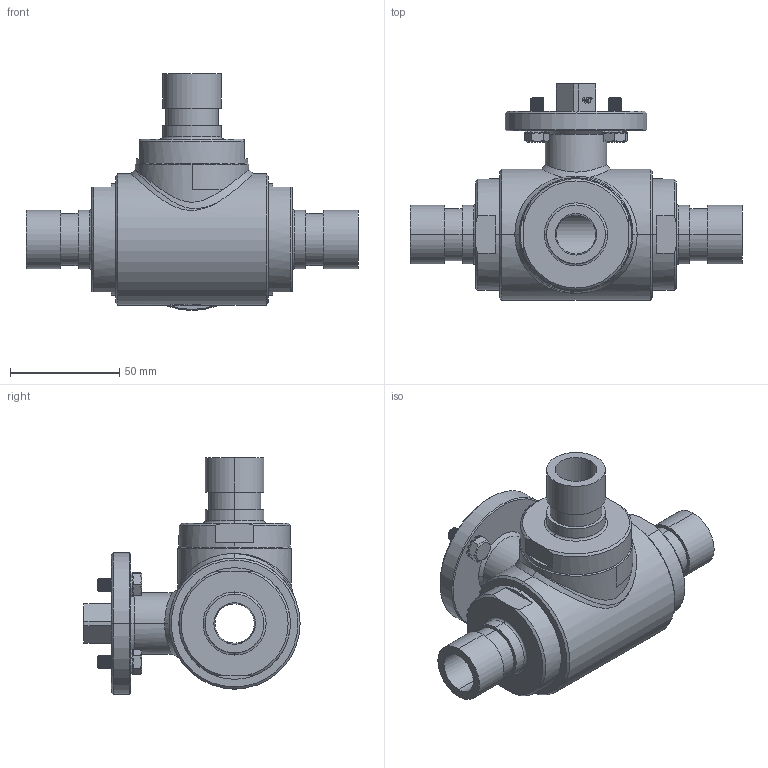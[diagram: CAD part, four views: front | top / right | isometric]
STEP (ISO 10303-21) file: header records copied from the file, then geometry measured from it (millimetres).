
FILE_DESCRIPTION((''),'2;1');
FILE_NAME('3030606201F_SW0001','2025-08-07T08:12:00',('tecnico2'),('CDM Tecnoconsulting'),'CREO PARAMETRIC BY PTC INC, 2024063','CREO PARAMETRIC BY PTC INC, 2024063','');
FILE_SCHEMA(('AUTOMOTIVE_DESIGN { 1 0 10303 214 1 1 1 1 }'));
Products named in the file (1): 3030606201F_SW0001
Bounding box: 152 x 99 x 108.5 mm (x, y, z)
Volume: 287198.5 mm3; surface area: 82598.3 mm2
Topology: 1 solids, 1 shells, 1562 faces, 4323 edges, 2717 vertices
Faces by surface type: plane 629, cylinder 444, cone 184, bspline 112, extrusion 111, torus 80, sphere 2
Entity records: 112286 total; most frequent: CARTESIAN_POINT 61549, ORIENTED_EDGE 8626, DIRECTION 6581, PRESENTATION_STYLE_ASSIGNMENT 4370, STYLED_ITEM 4314, CURVE_STYLE 4313, EDGE_CURVE 4313, VERTEX_POINT 2717
